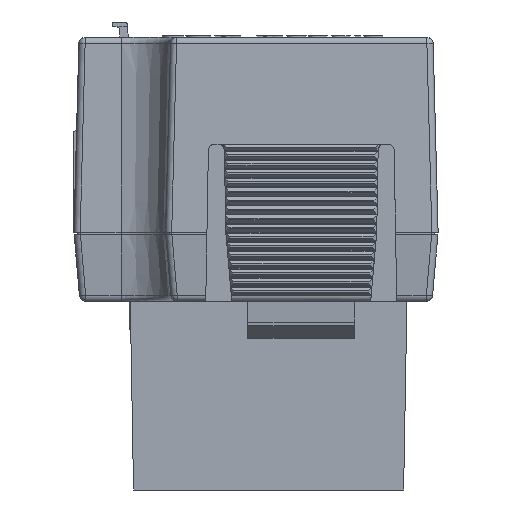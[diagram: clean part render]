
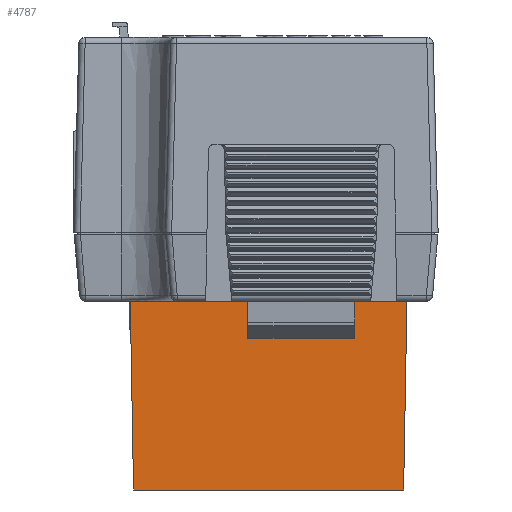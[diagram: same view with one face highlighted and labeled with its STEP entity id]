
A CAD part, front view. The second image highlights one B-rep face of the part: STEP entity #4787.
In plain terms, the highlighted planar face has unit normal (0, -1, -0.018).
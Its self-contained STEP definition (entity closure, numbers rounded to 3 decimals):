
#867 = EDGE_CURVE ( 'NONE', #34656, #23963, #25043, .T. ) ;
#1483 = ORIENTED_EDGE ( 'NONE', *, *, #7800, .F. ) ;
#3392 = VECTOR ( 'NONE', #7844, 1000. ) ;
#4055 = CARTESIAN_POINT ( 'NONE',  ( 4.797, 7.229, 49.737 ) ) ;
#4787 = ADVANCED_FACE ( 'NONE', ( #30357 ), #7957, .T. ) ;
#5199 = CARTESIAN_POINT ( 'NONE',  ( 4.797, 7.229, 49.737 ) ) ;
#6506 = ORIENTED_EDGE ( 'NONE', *, *, #34313, .F. ) ;
#7800 = EDGE_CURVE ( 'NONE', #28948, #24748, #26803, .T. ) ;
#7844 = DIRECTION ( 'NONE',  ( 1., 0., 0. ) ) ;
#7957 = PLANE ( 'NONE',  #19722 ) ;
#9261 = CARTESIAN_POINT ( 'NONE',  ( 60.529, 7.491, 34.737 ) ) ;
#10636 = CARTESIAN_POINT ( 'NONE',  ( 26.797, 7.229, 49.737 ) ) ;
#10662 = DIRECTION ( 'NONE',  ( 0., 0.017, -1. ) ) ;
#10732 = CARTESIAN_POINT ( 'NONE',  ( 4.799, 7.231, 49.615 ) ) ;
#13841 = CARTESIAN_POINT ( 'NONE',  ( 26.791, 7.235, 49.353 ) ) ;
#13844 = CARTESIAN_POINT ( 'NONE',  ( 26.535, 7.491, 34.737 ) ) ;
#14844 = VECTOR ( 'NONE', #16581, 1000. ) ;
#16581 = DIRECTION ( 'NONE',  ( 0.017, -0.017, 1. ) ) ;
#18206 = CARTESIAN_POINT ( 'NONE',  ( 4.797, 7.229, 49.737 ) ) ;
#19471 = ORIENTED_EDGE ( 'NONE', *, *, #867, .T. ) ;
#19722 = AXIS2_PLACEMENT_3D ( 'NONE', #5199, #26916, #10662 ) ;
#20869 = VECTOR ( 'NONE', #26872, 1000. ) ;
#20920 = DIRECTION ( 'NONE',  ( 1., 0., 0. ) ) ;
#21739 = LINE ( 'NONE', #10732, #20869 ) ;
#22179 = ORIENTED_EDGE ( 'NONE', *, *, #30312, .T. ) ;
#22498 = EDGE_LOOP ( 'NONE', ( #22179, #1483, #6506, #19471 ) ) ;
#23963 = VERTEX_POINT ( 'NONE', #13844 ) ;
#24748 = VERTEX_POINT ( 'NONE', #10636 ) ;
#25043 = LINE ( 'NONE', #9261, #3392 ) ;
#26803 = LINE ( 'NONE', #18206, #33175 ) ;
#26872 = DIRECTION ( 'NONE',  ( -0.017, -0.017, 1. ) ) ;
#26916 = DIRECTION ( 'NONE',  ( 0., -1., -0.017 ) ) ;
#27580 = CARTESIAN_POINT ( 'NONE',  ( 5.059, 7.491, 34.737 ) ) ;
#28948 = VERTEX_POINT ( 'NONE', #4055 ) ;
#29298 = LINE ( 'NONE', #13841, #14844 ) ;
#30312 = EDGE_CURVE ( 'NONE', #23963, #24748, #29298, .T. ) ;
#30357 = FACE_OUTER_BOUND ( 'NONE', #22498, .T. ) ;
#33175 = VECTOR ( 'NONE', #20920, 1000. ) ;
#34313 = EDGE_CURVE ( 'NONE', #34656, #28948, #21739, .T. ) ;
#34656 = VERTEX_POINT ( 'NONE', #27580 ) ;
